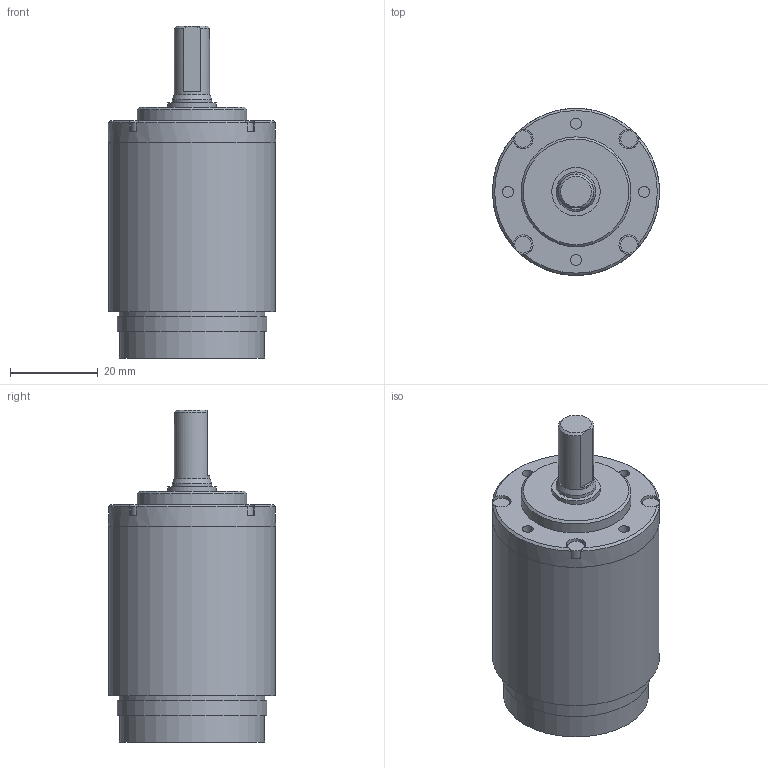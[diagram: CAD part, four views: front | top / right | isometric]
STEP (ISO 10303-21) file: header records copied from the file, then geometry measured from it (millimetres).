
FILE_DESCRIPTION(/* description */ (''),/* implementation_level */ '2;1');
FILE_NAME(/* name */ '38-2_5.stp',/* time_stamp */ '2016-09-16T10:43:15+02:00',/* author */ ('DR. FRITZ FAULHABER GmbH & Co. KG'),/* organization */ ('DR. FRITZ FAULHABER GmbH & Co. KG'),/* preprocessor_version */ 'ST-DEVELOPER v16',/* originating_system */ 'SIEMENS PLM Software NX 10.0',/* authorisation */ '');
FILE_SCHEMA (('AUTOMOTIVE_DESIGN { 1 0 10303 214 3 1 1 1 }'));
Length unit declared in the file: millimetre
Products named in the file (1): huge19E82220l2po
Bounding box: 38 x 38 x 75.5 mm (x, y, z)
Volume: 60188.1 mm3; surface area: 9850.8 mm2
Topology: 1 solids, 1 shells, 62 faces, 118 edges, 79 vertices
Faces by surface type: plane 29, cylinder 26, cone 7
Full cylindrical faces by diameter (mm): 2.5 x4, 3.8 x4, 8 x1, 9 x1, 11 x1, 11.8 x1, 12 x1, 25 x1, 26.9 x1, 27.57 x1, 33 x1, 33.2 x1, 34 x1, 37.99 x1, 38 x2
Entity records: 1468 total; most frequent: DIRECTION 271, CARTESIAN_POINT 257, ORIENTED_EDGE 176, AXIS2_PLACEMENT_3D 130, EDGE_LOOP 107, EDGE_CURVE 88, FACE_BOUND 86, VERTEX_POINT 73
